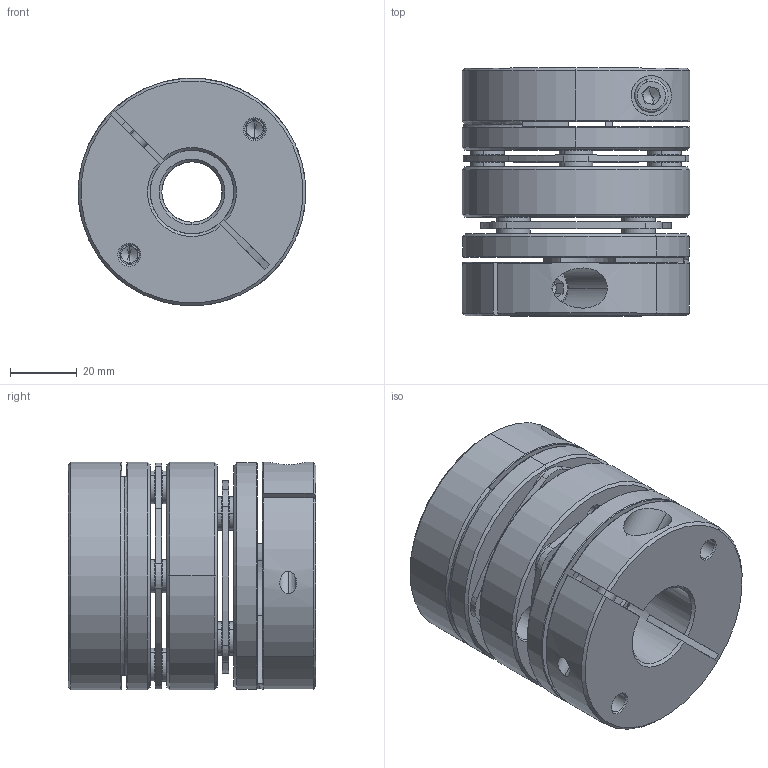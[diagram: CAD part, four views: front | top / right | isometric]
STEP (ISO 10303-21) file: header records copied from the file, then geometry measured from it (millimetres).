
FILE_DESCRIPTION (( 'STEP AP203' ), '1' );
FILE_NAME ('LD2-D68-18-25.STEP', '2021-10-26T08:26:07', ( '' ), ( '' ), 'SwSTEP 2.0', 'SolidWorks 2018', '' );
FILE_SCHEMA (( 'CONFIG_CONTROL_DESIGN' ));
Length unit declared in the file: millimetre
Products named in the file (2): 錨璃102^LD2-D68; LD2-D68-18-25
Assembly tree (1 placements, depth 2):
  LD2-D68-18-25
    錨璃102^LD2-D68
Bounding box: 68 x 74 x 68 mm (x, y, z)
Volume: 187090.3 mm3; surface area: 64443.8 mm2
Topology: 1 solids, 27 shells, 736 faces, 1708 edges, 1040 vertices
Faces by surface type: cylinder 258, cone 226, plane 222, torus 30
Entity records: 21536 total; most frequent: DIRECTION 4002, CARTESIAN_POINT 3933, ORIENTED_EDGE 3368, EDGE_CURVE 1684, AXIS2_PLACEMENT_3D 1625, VERTEX_POINT 1040, CIRCLE 885, EDGE_LOOP 872
